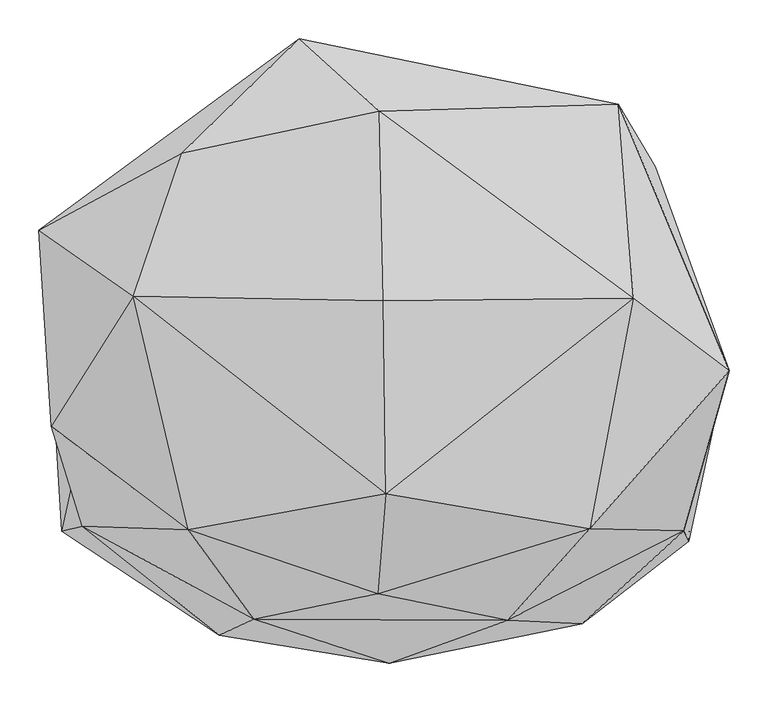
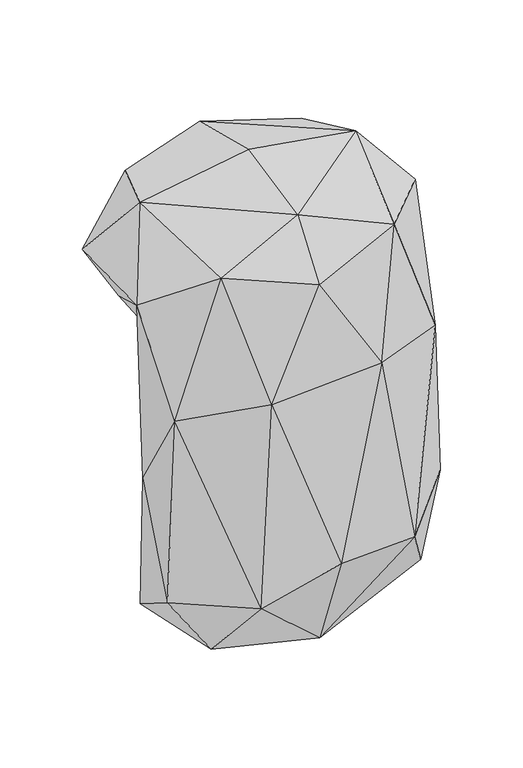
"""IFC4 building model written with IfcOpenShell, lengths in millimetres: geographic element geometry, Enscape AssetDefinition - Creeper Plant 015 Bower Vine : Enscape AssetDefinition - Creeper Plant 015 Bower Vine 2."""

from ifc_helpers import new_model, si_unit, origin, place, context, project, spatial, triangles, source, transform, mapped, element, save


def geographic_element_7e77056d(model_context):
    return source(origin(), model_context, "Body", "Tessellation", [
        triangles([(-388.3507504, 0.0, 0.0), (388.3507504, 0.0, 0.0), (355.2421246, 0.0, -285.829937), (414.5066757, -80.5841074, -105.6582855), (-438.7825195, -78.7758239, 104.2240344), (-383.753066, 110.0358435, 0.0), (330.5966449, 183.5191943, 0.0), (-281.6581168, 245.0049035, 0.0), (-455.0195735, 174.2217422, 133.0068523), (-270.6962314, 273.1446648, 258.399362), (-333.3744913, 88.7206293, 291.2993524), (-119.3706934, 420.6795911, 139.922028), (-268.8620592, 281.3631856, 16.324837), (311.1156029, 86.0506524, 292.5466055), (-16.4499918, 327.0879928, 291.1813909), (-10.9561115, 82.7707199, 350.0000027), (-2.3218439, 348.9440715, 5.5240899), (-2.3491767, 341.5829656, 0.0), (292.0416581, 336.3882972, 188.3484416), (339.4380747, 255.5049711, 49.0982249), (19.8406903, 329.9334949, 0.0), (-24.9792461, 330.533313, 0.0), (255.0259488, -211.0576478, 198.1220638), (434.9429646, -7.3956628, 152.8950098), (-7.680499, -165.7327799, 291.4115912), (-18.1834627, -294.5663223, 152.7842425), (149.4654771, -328.7523897, -132.0732157), (376.3746646, -213.4873868, -163.1879498), (383.0481671, -226.5639324, -613.5825331), (245.4666849, -333.0925681, -712.7888323), (394.0862652, -85.0724236, -857.5775236), (325.4911789, -225.5022785, -876.8974926), (255.4013982, 0.0, -910.4102726), (393.5367711, -75.4182072, -499.1921679), (121.6033514, -80.3870173, -1057.7855066), (-2.9807067, -383.8350377, -680.9145424), (11.2236847, -245.9299015, -1002.7733849), (-433.1893653, -86.1211332, -836.2825298), (-302.3259868, 0.0, -883.1308331), (-255.8761512, -148.5534234, -1005.7512554), (-52.5306417, 0.0, -1014.7810095), (39.1793173, 0.0, -1030.2370428), (-380.6961305, -9.1938696, -504.6385652), (309.3792626, 0.0, -514.7401651), (340.358767, 0.0, -733.3545828), (-359.3046673, 0.0, -840.5449877), (-398.7227554, -207.3130363, -198.7463898), (-222.44676, -347.9888972, -767.3737272), (-425.4786441, -214.0325934, -759.6545036), (-262.5165344, -212.1509495, 208.0337771), (-178.1648518, -327.6188107, -150.5717322), (338.5044107, 0.0, -848.5030775)], [[44, 3, 34], [45, 44, 34], [34, 52, 45], [38, 46, 39], [25, 14, 16], [27, 26, 51], [51, 48, 36], [27, 51, 36], [51, 26, 50], [26, 25, 50], [48, 51, 47], [50, 47, 51], [48, 47, 49], [43, 38, 49], [38, 43, 46], [43, 49, 47], [39, 46, 43], [43, 45, 52], [43, 44, 45], [43, 3, 44], [43, 52, 33], [43, 33, 42], [43, 41, 39], [43, 42, 41], [39, 41, 40], [48, 49, 40], [38, 39, 40], [40, 49, 38], [48, 40, 37], [36, 48, 37], [41, 35, 40], [41, 42, 35], [35, 37, 40], [35, 42, 33], [34, 31, 52], [31, 33, 52], [31, 35, 33], [37, 35, 32], [31, 32, 35], [37, 30, 36], [32, 30, 37], [30, 27, 36], [32, 29, 30], [31, 29, 32], [34, 29, 31], [34, 4, 29], [4, 34, 3], [28, 27, 30], [28, 30, 29], [4, 28, 29], [23, 14, 25], [28, 23, 27], [25, 26, 23], [23, 26, 27], [4, 24, 28], [14, 23, 24], [23, 28, 24], [7, 8, 22], [22, 21, 7], [22, 18, 21], [20, 7, 21], [19, 24, 20], [24, 19, 14], [20, 21, 17], [17, 22, 8], [20, 17, 19], [17, 18, 22], [17, 21, 18], [17, 8, 13], [17, 13, 12], [12, 19, 17], [14, 15, 16], [19, 12, 15], [14, 19, 15], [11, 50, 25], [15, 11, 16], [11, 25, 16], [15, 10, 11], [10, 15, 12], [8, 9, 13], [9, 12, 13], [10, 12, 9], [10, 9, 11], [50, 5, 47], [47, 5, 43], [9, 5, 11], [50, 11, 5], [8, 6, 9], [5, 9, 6], [7, 6, 8], [5, 6, 1], [5, 1, 43], [7, 1, 6], [24, 4, 2], [4, 3, 2], [20, 2, 7], [20, 24, 2], [43, 2, 3], [43, 1, 2], [7, 2, 1]]),
    ])


if __name__ == "__main__":
    model = new_model("IFC4")
    model_context = context("Model", 3, world=origin())
    ifc_project = project(units=[si_unit("LENGTHUNIT", "METRE", prefix="MILLI")], contexts=[model_context])
    site = spatial("IfcSite", under=ifc_project)
    building = spatial("IfcBuilding", under=site)
    placement = place(None, origin())
    geographic_element_shape = geographic_element_7e77056d(model_context)
    element("IfcGeographicElement", 1, ObjectType="Enscape AssetDefinition - Creeper Plant 015 Bower Vine : Enscape AssetDefinition - Creeper Plant 015 Bower Vine 2", at=placement, inside=building, context=model_context, shape_type="MappedRepresentation", body=[
        mapped(geographic_element_shape, transform((0.0, 0.0, 0.0), x_axis=(1.0, 0.0, 0.0), y_axis=(0.0, 1.0, 0.0), z_axis=(0.0, 0.0, 1.0))),
    ])
    save(model, "model.ifc")
